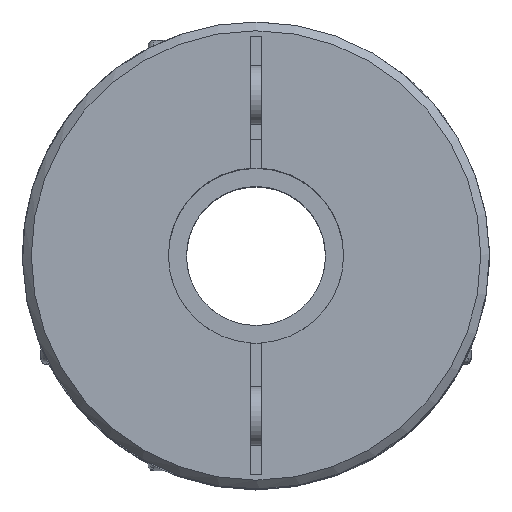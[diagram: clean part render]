
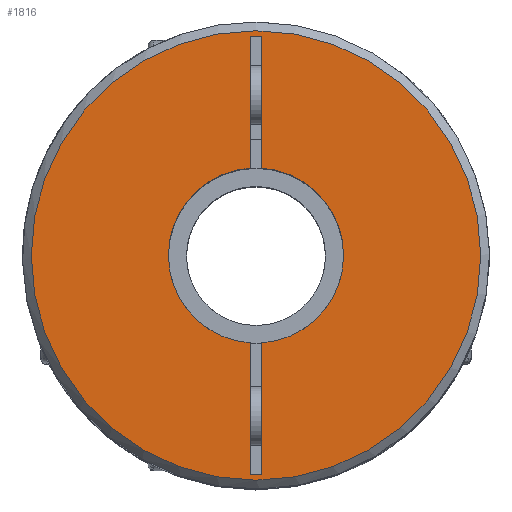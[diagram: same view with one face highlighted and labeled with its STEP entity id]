
A CAD part, top view. The second image highlights one B-rep face of the part: STEP entity #1816.
In plain terms, the highlighted planar face has unit normal (0, 0, 1).
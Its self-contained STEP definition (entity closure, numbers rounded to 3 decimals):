
#16 = DIRECTION ( 'NONE',  ( 0., 1., 0. ) ) ;
#27 = VERTEX_POINT ( 'NONE', #3022 ) ;
#31 = CARTESIAN_POINT ( 'NONE',  ( 0., 0., 20.5 ) ) ;
#54 = CARTESIAN_POINT ( 'NONE',  ( 0.4, 1.5, 20.5 ) ) ;
#97 = PLANE ( 'NONE',  #1051 ) ;
#122 = CARTESIAN_POINT ( 'NONE',  ( 0., 1.5, 20.5 ) ) ;
#172 = EDGE_CURVE ( 'NONE', #2468, #27, #2492, .T. ) ;
#212 = LINE ( 'NONE', #848, #830 ) ;
#230 = EDGE_LOOP ( 'NONE', ( #3402, #1356, #2253, #3766, #1303, #1709, #1782, #1854 ) ) ;
#263 = CARTESIAN_POINT ( 'NONE',  ( 0.4, -15., 20.5 ) ) ;
#294 = VERTEX_POINT ( 'NONE', #721 ) ;
#342 = VECTOR ( 'NONE', #3219, 1000. ) ;
#349 = LINE ( 'NONE', #54, #642 ) ;
#362 = DIRECTION ( 'NONE',  ( 0., 1., 0. ) ) ;
#372 = CARTESIAN_POINT ( 'NONE',  ( 0.4, -5.987, 20.5 ) ) ;
#417 = VECTOR ( 'NONE', #362, 1000. ) ;
#433 = VERTEX_POINT ( 'NONE', #263 ) ;
#461 = EDGE_CURVE ( 'NONE', #474, #2330, #3804, .T. ) ;
#474 = VERTEX_POINT ( 'NONE', #372 ) ;
#520 = AXIS2_PLACEMENT_3D ( 'NONE', #3799, #2745, #2102 ) ;
#526 = ORIENTED_EDGE ( 'NONE', *, *, #867, .T. ) ;
#530 = AXIS2_PLACEMENT_3D ( 'NONE', #31, #784, #2495 ) ;
#642 = VECTOR ( 'NONE', #3841, 1000. ) ;
#721 = CARTESIAN_POINT ( 'NONE',  ( -0.4, -15., 20.5 ) ) ;
#732 = LINE ( 'NONE', #1095, #1738 ) ;
#761 = CARTESIAN_POINT ( 'NONE',  ( -0.4, -15., 20.5 ) ) ;
#778 = FACE_BOUND ( 'NONE', #230, .T. ) ;
#784 = DIRECTION ( 'NONE',  ( 0., 0., 1. ) ) ;
#821 = DIRECTION ( 'NONE',  ( 0., 0., -1. ) ) ;
#830 = VECTOR ( 'NONE', #1574, 1000. ) ;
#848 = CARTESIAN_POINT ( 'NONE',  ( -0.4, 15., 20.5 ) ) ;
#867 = EDGE_CURVE ( 'NONE', #2526, #2526, #3306, .T. ) ;
#950 = EDGE_CURVE ( 'NONE', #1671, #3955, #212, .T. ) ;
#1051 = AXIS2_PLACEMENT_3D ( 'NONE', #122, #821, #16 ) ;
#1057 = DIRECTION ( 'NONE',  ( 0., -1., 0. ) ) ;
#1095 = CARTESIAN_POINT ( 'NONE',  ( -0.4, 15., 20.5 ) ) ;
#1303 = ORIENTED_EDGE ( 'NONE', *, *, #3651, .T. ) ;
#1356 = ORIENTED_EDGE ( 'NONE', *, *, #461, .F. ) ;
#1391 = LINE ( 'NONE', #4187, #1917 ) ;
#1492 = EDGE_CURVE ( 'NONE', #3955, #2330, #1391, .T. ) ;
#1574 = DIRECTION ( 'NONE',  ( 1., 0., 0. ) ) ;
#1671 = VERTEX_POINT ( 'NONE', #1983 ) ;
#1709 = ORIENTED_EDGE ( 'NONE', *, *, #172, .F. ) ;
#1738 = VECTOR ( 'NONE', #2111, 1000. ) ;
#1782 = ORIENTED_EDGE ( 'NONE', *, *, #4288, .F. ) ;
#1816 = ADVANCED_FACE ( 'NONE', ( #3163, #778 ), #97, .F. ) ;
#1854 = ORIENTED_EDGE ( 'NONE', *, *, #950, .T. ) ;
#1917 = VECTOR ( 'NONE', #1057, 1000. ) ;
#1961 = DIRECTION ( 'NONE',  ( 1., 0., 0. ) ) ;
#1983 = CARTESIAN_POINT ( 'NONE',  ( -0.4, 15., 20.5 ) ) ;
#2059 = LINE ( 'NONE', #4082, #417 ) ;
#2102 = DIRECTION ( 'NONE',  ( 1., 0., 0. ) ) ;
#2111 = DIRECTION ( 'NONE',  ( 0., -1., 0. ) ) ;
#2253 = ORIENTED_EDGE ( 'NONE', *, *, #3432, .F. ) ;
#2330 = VERTEX_POINT ( 'NONE', #4181 ) ;
#2468 = VERTEX_POINT ( 'NONE', #3271 ) ;
#2492 = CIRCLE ( 'NONE', #3545, 6. ) ;
#2495 = DIRECTION ( 'NONE',  ( 0., 1., 0. ) ) ;
#2526 = VERTEX_POINT ( 'NONE', #3879 ) ;
#2745 = DIRECTION ( 'NONE',  ( 0., 0., 1. ) ) ;
#2846 = LINE ( 'NONE', #761, #342 ) ;
#3013 = EDGE_CURVE ( 'NONE', #294, #433, #2846, .T. ) ;
#3022 = CARTESIAN_POINT ( 'NONE',  ( -0.4, -5.987, 20.5 ) ) ;
#3163 = FACE_OUTER_BOUND ( 'NONE', #3761, .T. ) ;
#3219 = DIRECTION ( 'NONE',  ( 1., 0., 0. ) ) ;
#3271 = CARTESIAN_POINT ( 'NONE',  ( -0.4, 5.987, 20.5 ) ) ;
#3306 = CIRCLE ( 'NONE', #530, 15.4 ) ;
#3388 = CARTESIAN_POINT ( 'NONE',  ( 0., 0., 20.5 ) ) ;
#3402 = ORIENTED_EDGE ( 'NONE', *, *, #1492, .T. ) ;
#3432 = EDGE_CURVE ( 'NONE', #433, #474, #349, .T. ) ;
#3545 = AXIS2_PLACEMENT_3D ( 'NONE', #3388, #4409, #1961 ) ;
#3620 = CARTESIAN_POINT ( 'NONE',  ( 0.4, 15., 20.5 ) ) ;
#3651 = EDGE_CURVE ( 'NONE', #294, #27, #2059, .T. ) ;
#3761 = EDGE_LOOP ( 'NONE', ( #526 ) ) ;
#3766 = ORIENTED_EDGE ( 'NONE', *, *, #3013, .F. ) ;
#3799 = CARTESIAN_POINT ( 'NONE',  ( 0., 0., 20.5 ) ) ;
#3804 = CIRCLE ( 'NONE', #520, 6. ) ;
#3841 = DIRECTION ( 'NONE',  ( 0., 1., 0. ) ) ;
#3879 = CARTESIAN_POINT ( 'NONE',  ( 0., 15.4, 20.5 ) ) ;
#3955 = VERTEX_POINT ( 'NONE', #3620 ) ;
#4082 = CARTESIAN_POINT ( 'NONE',  ( -0.4, 1.5, 20.5 ) ) ;
#4181 = CARTESIAN_POINT ( 'NONE',  ( 0.4, 5.987, 20.5 ) ) ;
#4187 = CARTESIAN_POINT ( 'NONE',  ( 0.4, 15., 20.5 ) ) ;
#4288 = EDGE_CURVE ( 'NONE', #1671, #2468, #732, .T. ) ;
#4409 = DIRECTION ( 'NONE',  ( 0., 0., 1. ) ) ;
